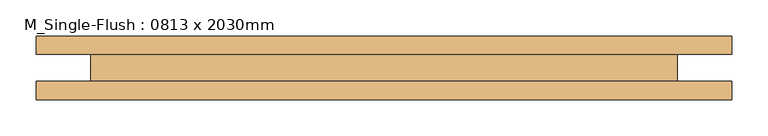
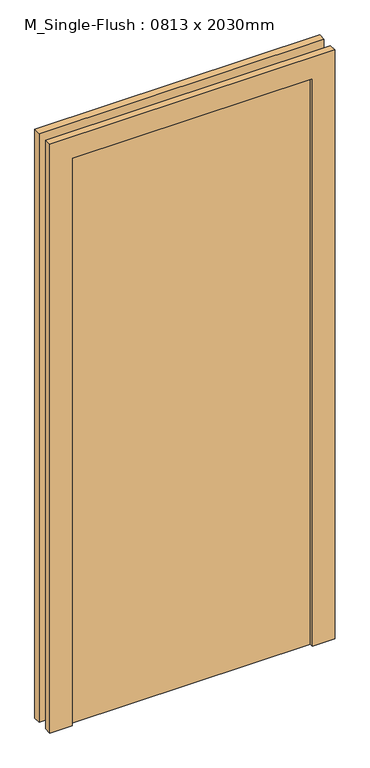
"""IFC4 building model written with IfcOpenShell, lengths in millimetres: door geometry, M_Single-Flush : 0813 x 2030mm."""

from ifc_helpers import new_model, si_unit, frame, origin, origin_with_axes, place, context, project, spatial, polyline, outline, extrude, source, transform, mapped, element, save


def m_single_flush_0813_x_2030mm_d505ac39(model_context):
    return source(origin(), model_context, "Body", "SweptSolid", [
        extrude(outline(polyline([(2106.0, -482.5), (0.0, -482.5), (0.0, -406.5), (2030.0, -406.5), (2030.0, 406.5), (0.0, 406.5), (0.0, 482.5), (2106.0, 482.5), (2106.0, -482.5)])), frame((0.0, 19.0, 0.0), z_axis=(0.0, 1.0, 0.0), x_axis=(0.0, 0.0, 1.0)), (0.0, 0.0, 1.0), 25.0),
        extrude(outline(polyline([(2106.0, 482.5), (2106.0, -482.5), (0.0, -482.5), (0.0, -406.5), (2030.0, -406.5), (2030.0, 406.5), (0.0, 406.5), (0.0, 482.5), (2106.0, 482.5)])), frame((0.0, -44.0, 0.0), z_axis=(0.0, 1.0, 0.0), x_axis=(0.0, 0.0, 1.0)), (0.0, 0.0, 1.0), 25.0),
        extrude(outline(polyline([(406.5, -32.0), (-406.5, -32.0), (-406.5, 19.0), (406.5, 19.0), (406.5, -32.0)])), origin_with_axes(), (0.0, 0.0, 1.0), 2030.0),
    ])


if __name__ == "__main__":
    model = new_model("IFC4")
    model_context = context("Model", 3, world=origin())
    ifc_project = project(units=[si_unit("LENGTHUNIT", "METRE", prefix="MILLI")], contexts=[model_context])
    site = spatial("IfcSite", under=ifc_project)
    building = spatial("IfcBuilding", under=site)
    placement = place(None, origin())
    m_single_flush_0813_x_2030mm_shape = m_single_flush_0813_x_2030mm_d505ac39(model_context)
    element("IfcDoor", 1, ObjectType="M_Single-Flush : 0813 x 2030mm", at=placement, inside=building, context=model_context, shape_type="MappedRepresentation", body=[
        mapped(m_single_flush_0813_x_2030mm_shape, transform((0.0, 0.0, 0.0), x_axis=(1.0, 0.0, 0.0), y_axis=(0.0, 1.0, 0.0), z_axis=(0.0, 0.0, 1.0))),
    ])
    save(model, "model.ifc")
